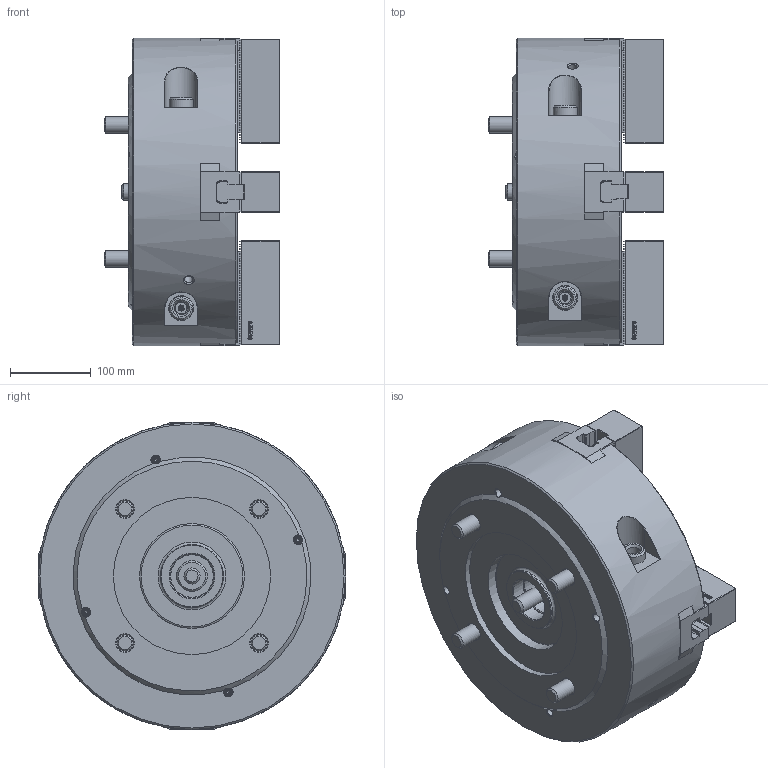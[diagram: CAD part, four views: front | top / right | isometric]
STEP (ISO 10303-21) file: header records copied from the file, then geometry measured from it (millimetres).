
FILE_DESCRIPTION (( 'STEP AP214' ), '1' );
FILE_NAME ('DT1_HW-15_OUTSIDE_VIEW_HCL.STEP', '2024-05-10T00:58:50', ( '' ), ( '' ), 'SwSTEP 2.0', 'SolidWorks 2022', '' );
FILE_SCHEMA (( 'AUTOMOTIVE_DESIGN' ));
Length unit declared in the file: millimetre
Products named in the file (10): DT1_HW-15_OUTSIDE_VIEW_HCL; DT1_HW-15_COVER^DT1_HW-15_ﾃﾞﾌｫﾙﾄ; DT1_HW-15_SOFTJAW^DT1_HW-15_ﾃﾞﾌｫﾙﾄ; DT1_HW-15_M20x140^DT1_HW-15_ﾃﾞﾌｫﾙﾄ; DT1_HW-15_TNUT^DT1_HW-15_ﾃﾞﾌｫﾙﾄ; DT1_HW-15_BASE^DT1_HW-15_ﾃﾞﾌｫﾙﾄ; DT1_HW-15_M14x40^DT1_HW-15_ﾃﾞﾌｫﾙﾄ; DT1_HW-15_DN^DT1_HW-15_ﾃﾞﾌｫﾙﾄ; DT1_HW-15_M5x10^DT1_HW-15_ﾃﾞﾌｫﾙﾄ; DT1_HW-15_DRAWSCREW^DT1_HW-15_ﾃﾞﾌｫﾙﾄ
Assembly tree (28 placements, depth 2):
  DT1_HW-15_OUTSIDE_VIEW_HCL
    DT1_HW-15_SOFTJAW^DT1_HW-15_ﾃﾞﾌｫﾙﾄ  x4
    DT1_HW-15_TNUT^DT1_HW-15_ﾃﾞﾌｫﾙﾄ  x4
    DT1_HW-15_COVER^DT1_HW-15_ﾃﾞﾌｫﾙﾄ
    DT1_HW-15_DRAWSCREW^DT1_HW-15_ﾃﾞﾌｫﾙﾄ
    DT1_HW-15_DN^DT1_HW-15_ﾃﾞﾌｫﾙﾄ
    DT1_HW-15_BASE^DT1_HW-15_ﾃﾞﾌｫﾙﾄ
    DT1_HW-15_M20x140^DT1_HW-15_ﾃﾞﾌｫﾙﾄ  x4
    DT1_HW-15_M14x40^DT1_HW-15_ﾃﾞﾌｫﾙﾄ  x8
    DT1_HW-15_M5x10^DT1_HW-15_ﾃﾞﾌｫﾙﾄ  x4
Bounding box: 218 x 381.5 x 381.5 mm (x, y, z)
Volume: 15585003.8 mm3; surface area: 900769 mm2
Topology: 28 solids, 36 shells, 5402 faces, 15310 edges, 10126 vertices
Faces by surface type: plane 3824, cylinder 898, bspline 379, cone 266, torus 31, sphere 4
Full cylindrical faces by diameter (mm): 2 x4, 4.2 x4, 5 x4, 5.5 x4, 6.8 x5, 8.72 x4, 9.5 x4, 10.2 x6, 12 x8, 13.27 x4, 14 x12, 15 x8, 17 x5, 17.5 x1, 20 x6, 21 x4, 21.33 x8, 22 x8, 27 x1, 29.6 x4, 30.33 x4, 31 x5, 32 x4, 38 x1, 52.835 x1, 55 x1, 56 x2, 78 x1, 130 x1, 195 x1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
Entity records: 125606 total; most frequent: CARTESIAN_POINT 34574, ORIENTED_EDGE 20006, DIRECTION 16681, EDGE_CURVE 10003, LINE 7805, VECTOR 7805, VERTEX_POINT 6722, AXIS2_PLACEMENT_3D 4438
